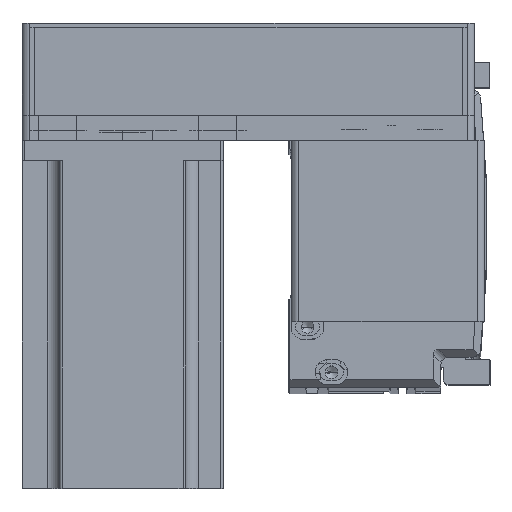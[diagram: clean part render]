
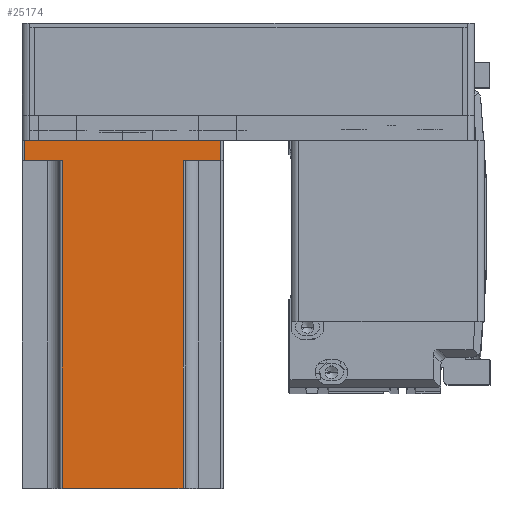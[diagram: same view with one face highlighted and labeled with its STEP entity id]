
A CAD part, top view. The second image highlights one B-rep face of the part: STEP entity #25174.
In plain terms, the highlighted planar face has unit normal (0, 0, 1) as drawn and (0, 1, 0) by its records, which use the part's own axes.
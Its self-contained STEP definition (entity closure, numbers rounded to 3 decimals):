
#1334 = ORIENTED_EDGE ( 'NONE', *, *, #14189, .F. ) ;
#2203 = EDGE_CURVE ( 'NONE', #4640, #32033, #7896, .T. ) ;
#2233 = VECTOR ( 'NONE', #3037, 1000. ) ;
#3037 = DIRECTION ( 'NONE',  ( -1., 0., 0. ) ) ;
#4640 = VERTEX_POINT ( 'NONE', #24998 ) ;
#5618 = CARTESIAN_POINT ( 'NONE',  ( 39., 40., 8. ) ) ;
#6528 = VECTOR ( 'NONE', #43898, 1000. ) ;
#7188 = CARTESIAN_POINT ( 'NONE',  ( 40., 40., 138.3 ) ) ;
#7896 = LINE ( 'NONE', #52707, #6528 ) ;
#8742 = CARTESIAN_POINT ( 'NONE',  ( 25., 40., 8. ) ) ;
#9041 = VECTOR ( 'NONE', #51788, 1000. ) ;
#9803 = EDGE_CURVE ( 'NONE', #21658, #32033, #27567, .T. ) ;
#9974 = DIRECTION ( 'NONE',  ( 0., 0., -1. ) ) ;
#10039 = ORIENTED_EDGE ( 'NONE', *, *, #2203, .T. ) ;
#11030 = CARTESIAN_POINT ( 'NONE',  ( -39., 40., 8. ) ) ;
#13002 = DIRECTION ( 'NONE',  ( -1., 0., 0. ) ) ;
#13018 = VECTOR ( 'NONE', #17823, 1000. ) ;
#13338 = LINE ( 'NONE', #16108, #46090 ) ;
#14189 = EDGE_CURVE ( 'NONE', #54946, #38424, #35519, .T. ) ;
#15558 = ORIENTED_EDGE ( 'NONE', *, *, #9803, .F. ) ;
#15892 = ORIENTED_EDGE ( 'NONE', *, *, #22244, .T. ) ;
#16108 = CARTESIAN_POINT ( 'NONE',  ( -25., 40., 8. ) ) ;
#16568 = CARTESIAN_POINT ( 'NONE',  ( 40., 40., 138.3 ) ) ;
#17823 = DIRECTION ( 'NONE',  ( 0., 0., 1. ) ) ;
#17968 = CARTESIAN_POINT ( 'NONE',  ( 39., 40., 0. ) ) ;
#20478 = FACE_OUTER_BOUND ( 'NONE', #40513, .T. ) ;
#20840 = DIRECTION ( 'NONE',  ( 1., 0., 0. ) ) ;
#21658 = VERTEX_POINT ( 'NONE', #34741 ) ;
#22244 = EDGE_CURVE ( 'NONE', #25829, #26389, #25653, .T. ) ;
#22994 = CARTESIAN_POINT ( 'NONE',  ( 40., 40., 0. ) ) ;
#24799 = VECTOR ( 'NONE', #9974, 1000. ) ;
#24866 = AXIS2_PLACEMENT_3D ( 'NONE', #16568, #46459, #20840 ) ;
#24998 = CARTESIAN_POINT ( 'NONE',  ( -24., 40., 8. ) ) ;
#25174 = ADVANCED_FACE ( 'NONE', ( #20478 ), #54864, .F. ) ;
#25653 = LINE ( 'NONE', #26380, #13018 ) ;
#25829 = VERTEX_POINT ( 'NONE', #28397 ) ;
#26380 = CARTESIAN_POINT ( 'NONE',  ( -39., 40., 138.3 ) ) ;
#26389 = VERTEX_POINT ( 'NONE', #11030 ) ;
#26399 = ORIENTED_EDGE ( 'NONE', *, *, #36797, .T. ) ;
#27348 = ORIENTED_EDGE ( 'NONE', *, *, #40785, .T. ) ;
#27567 = LINE ( 'NONE', #7188, #2233 ) ;
#28397 = CARTESIAN_POINT ( 'NONE',  ( -39., 40., 0. ) ) ;
#28748 = EDGE_CURVE ( 'NONE', #21658, #38424, #33076, .T. ) ;
#30734 = LINE ( 'NONE', #22994, #40754 ) ;
#32033 = VERTEX_POINT ( 'NONE', #40433 ) ;
#33076 = LINE ( 'NONE', #47529, #9041 ) ;
#34196 = VECTOR ( 'NONE', #13002, 1000. ) ;
#34741 = CARTESIAN_POINT ( 'NONE',  ( 24., 40., 138.3 ) ) ;
#35519 = LINE ( 'NONE', #8742, #34196 ) ;
#36580 = EDGE_CURVE ( 'NONE', #45586, #25829, #30734, .T. ) ;
#36797 = EDGE_CURVE ( 'NONE', #26389, #4640, #13338, .T. ) ;
#38424 = VERTEX_POINT ( 'NONE', #51485 ) ;
#39796 = CARTESIAN_POINT ( 'NONE',  ( 39., 40., 138.3 ) ) ;
#40163 = LINE ( 'NONE', #39796, #24799 ) ;
#40433 = CARTESIAN_POINT ( 'NONE',  ( -24., 40., 138.3 ) ) ;
#40513 = EDGE_LOOP ( 'NONE', ( #26399, #10039, #15558, #48979, #1334, #27348, #45628, #15892 ) ) ;
#40754 = VECTOR ( 'NONE', #52923, 1000. ) ;
#40785 = EDGE_CURVE ( 'NONE', #54946, #45586, #40163, .T. ) ;
#43898 = DIRECTION ( 'NONE',  ( 0., 0., 1. ) ) ;
#45586 = VERTEX_POINT ( 'NONE', #17968 ) ;
#45628 = ORIENTED_EDGE ( 'NONE', *, *, #36580, .T. ) ;
#46007 = DIRECTION ( 'NONE',  ( 1., 0., 0. ) ) ;
#46090 = VECTOR ( 'NONE', #46007, 1000. ) ;
#46459 = DIRECTION ( 'NONE',  ( 0., -1., 0. ) ) ;
#47529 = CARTESIAN_POINT ( 'NONE',  ( 24., 40., 138.3 ) ) ;
#48979 = ORIENTED_EDGE ( 'NONE', *, *, #28748, .T. ) ;
#51485 = CARTESIAN_POINT ( 'NONE',  ( 24., 40., 8. ) ) ;
#51788 = DIRECTION ( 'NONE',  ( 0., 0., -1. ) ) ;
#52707 = CARTESIAN_POINT ( 'NONE',  ( -24., 40., 138.3 ) ) ;
#52923 = DIRECTION ( 'NONE',  ( -1., 0., 0. ) ) ;
#54864 = PLANE ( 'NONE',  #24866 ) ;
#54946 = VERTEX_POINT ( 'NONE', #5618 ) ;
